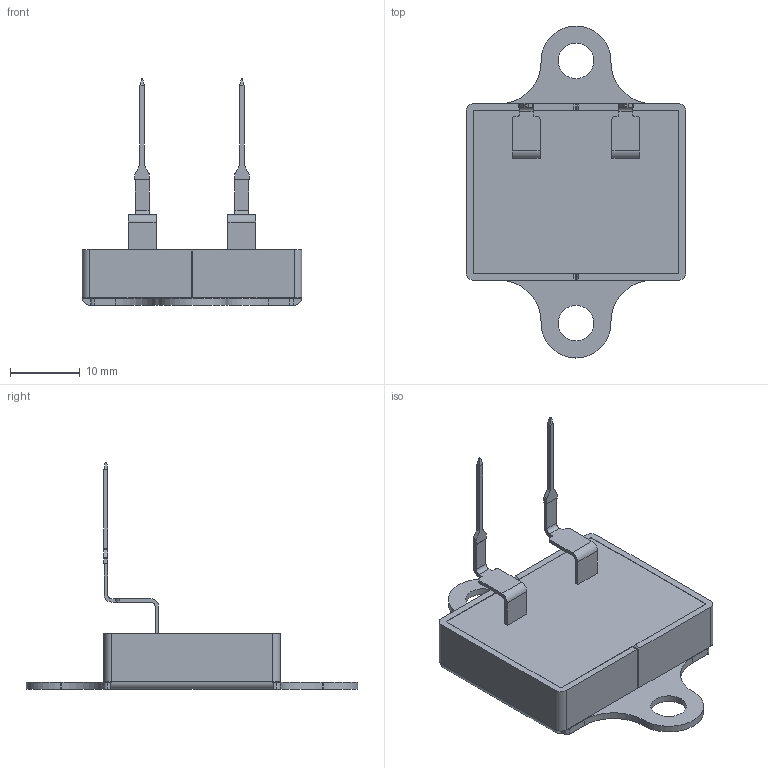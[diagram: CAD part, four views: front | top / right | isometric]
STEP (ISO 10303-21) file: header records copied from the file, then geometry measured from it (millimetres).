
FILE_DESCRIPTION(/* description */ (''),/* implementation_level */ '2;1');
FILE_NAME(/* name */ '',/* time_stamp */ '2025-12-17T10:32:09+09:00',/* author */ (''),/* organization */ (''),/* preprocessor_version */ 'ST-DEVELOPER v20.1',/* originating_system */ 'Autodesk Translation Framework v14.21.0.0',/* authorisation */ '');
FILE_SCHEMA (('AUTOMOTIVE_DESIGN { 1 0 10303 214 3 1 1 }'));
Length unit declared in the file: millimetre
Products named in the file (1): 2025-06-24-11-14-59-780
Bounding box: 31.5 x 47.6 x 32.52 mm (x, y, z)
Volume: 6566 mm3; surface area: 3376.8 mm2
Topology: 1 solids, 1 shells, 164 faces, 450 edges, 292 vertices
Faces by surface type: plane 114, cylinder 50
Full cylindrical faces by diameter (mm): 5.1 x2
Entity records: 5312 total; most frequent: CARTESIAN_POINT 907, ORIENTED_EDGE 900, DIRECTION 884, EDGE_CURVE 450, LINE 346, VECTOR 346, VERTEX_POINT 292, AXIS2_PLACEMENT_3D 269
